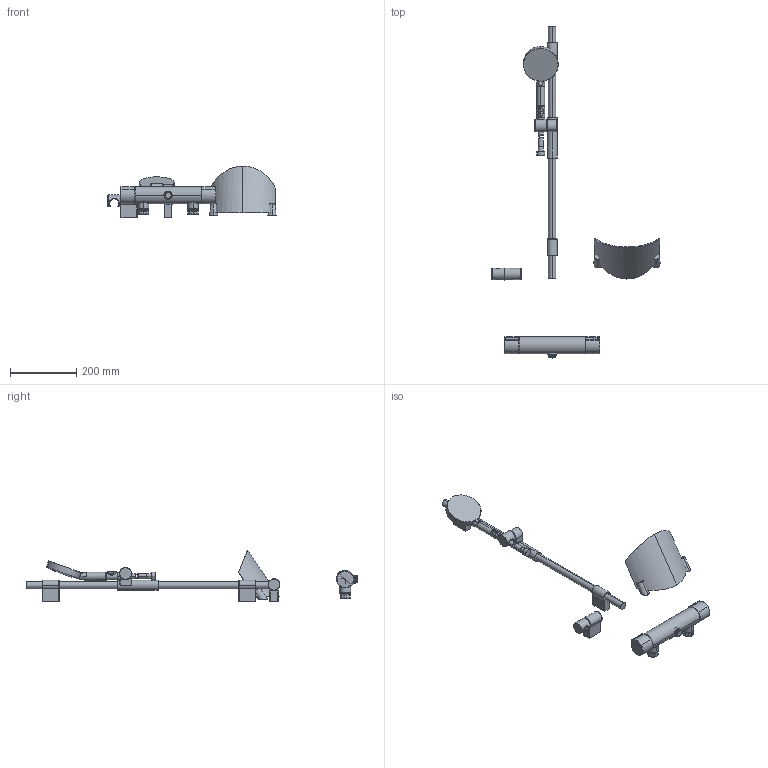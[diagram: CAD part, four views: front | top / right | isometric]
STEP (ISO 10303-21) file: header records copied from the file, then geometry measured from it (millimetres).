
FILE_DESCRIPTION (( 'STEP AP203' ), '1' );
FILE_NAME ('2874.STEP', '2018-07-05T10:55:16', ( '' ), ( '' ), 'SwSTEP 2.0', 'SolidWorks 2016', '' );
FILE_SCHEMA (( 'CONFIG_CONTROL_DESIGN' ));
Length unit declared in the file: millimetre
Products named in the file (1): 2874
Bounding box: 506 x 999.55 x 154.94 mm (x, y, z)
Volume: 1816869.6 mm3; surface area: 312117.8 mm2
Topology: 21 solids, 21 shells, 526 faces, 1169 edges, 692 vertices
Faces by surface type: cylinder 133, bspline 122, plane 111, torus 81, cone 65, sphere 14
Entity records: 22675 total; most frequent: CARTESIAN_POINT 11974, ORIENTED_EDGE 2306, DIRECTION 2099, EDGE_CURVE 1153, AXIS2_PLACEMENT_3D 909, VERTEX_POINT 692, EDGE_LOOP 549, FACE_OUTER_BOUND 526
